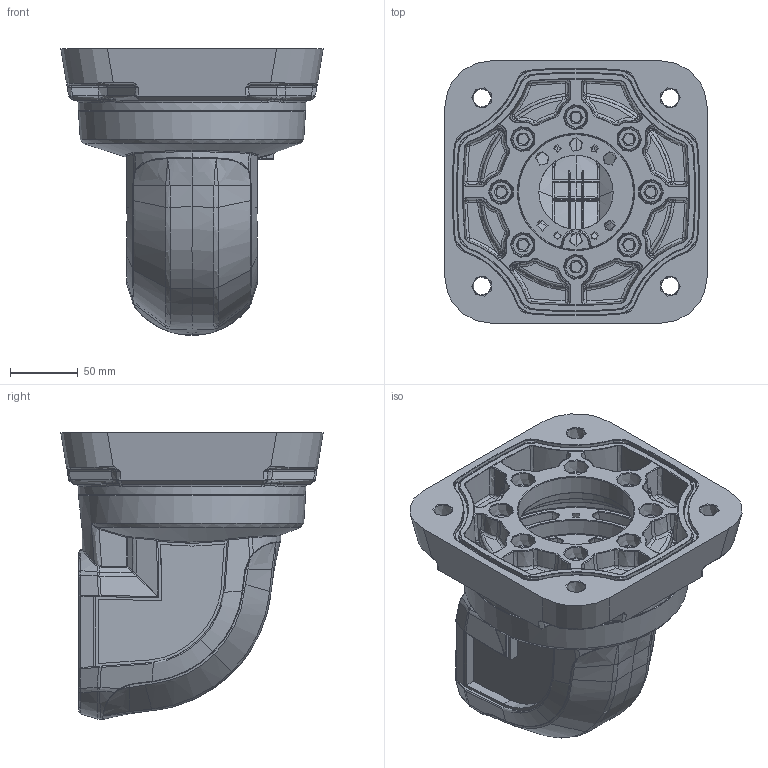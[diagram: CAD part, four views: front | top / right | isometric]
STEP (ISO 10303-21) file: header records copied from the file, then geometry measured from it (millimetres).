
FILE_DESCRIPTION(/* description */ (''),/* implementation_level */ '2;1');
FILE_NAME(/* name */ '75-110-520.stp',/* time_stamp */ '2025-03-19T12:57:31+08:00',/* author */ (''),/* organization */ (''),/* preprocessor_version */ 'ST-DEVELOPER v11',/* originating_system */ 'SIEMENS PLM Software NX 7.0',/* authorisation */ '');
FILE_SCHEMA (('AUTOMOTIVE_DESIGN { 1 0 10303 214 1 1 1 1 }'));
Products named in the file (1): PC615Dcm2b
Bounding box: 194 x 194 x 212.04 mm (x, y, z)
Volume: 1244821.5 mm3; surface area: 350938.1 mm2
Topology: 3 solids, 11 shells, 2499 faces, 5957 edges, 3456 vertices
Faces by surface type: bspline 1319, cylinder 347, torus 311, plane 298, cone 171, extrusion 37, sphere 16
Full cylindrical faces by diameter (mm): 3.5 x2, 4.5 x1, 8.5 x1, 9.398 x4, 13.643 x4
Entity records: 125629 total; most frequent: CARTESIAN_POINT 61978, ORIENTED_EDGE 11234, DIRECTION 7163, EDGE_CURVE 5617, VERTEX_POINT 3370, AXIS2_PLACEMENT_3D 3187, EDGE_LOOP 2801, PRESENTATION_STYLE_ASSIGNMENT 2502
